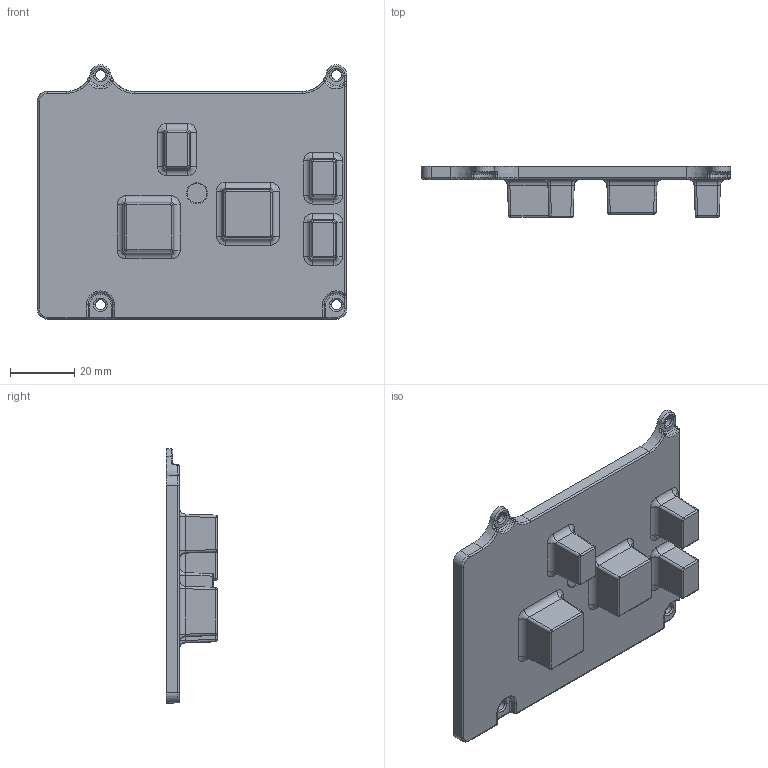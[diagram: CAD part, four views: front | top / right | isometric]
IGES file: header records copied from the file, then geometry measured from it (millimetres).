
Start section:  PTC IGES file: cd_ni-9695.igs
Global section: file name: cd_ni-9695.igs; native system: Pro/ENGINEER by Parametric Technology Corporation; preprocessor: 2010230; author: jbuhisan; organization: Unknown; date: 20120806.091116; units: inch
Bounding box: 96.52 x 15.94 x 79.41 mm (x, y, z)
Surface area: 17653.9 mm2 (no closed solid volume)
Topology: 0 solids, 0 shells, 231 faces, 1040 edges, 1040 vertices
Faces by surface type: revolution 138, bspline 93
